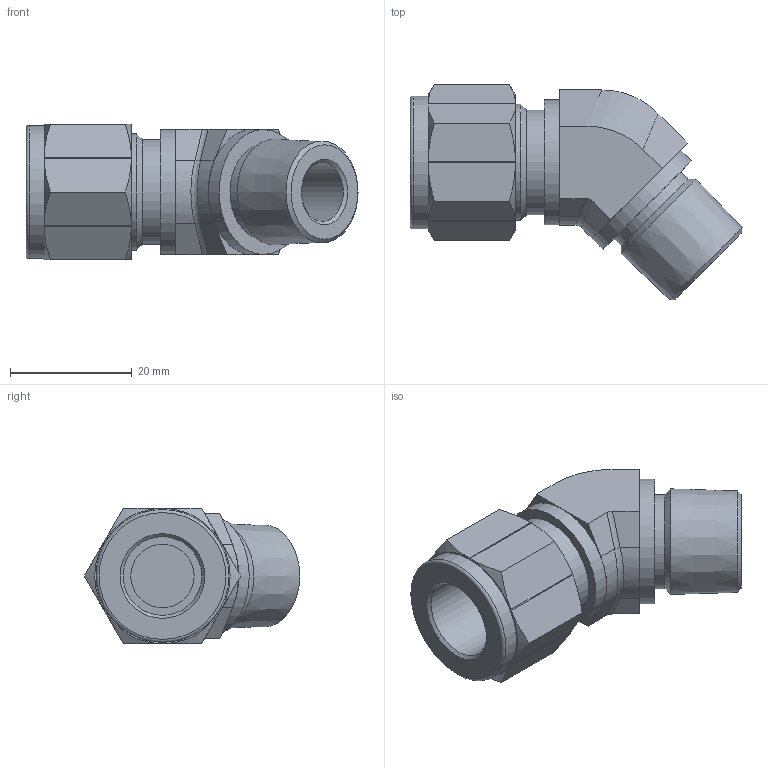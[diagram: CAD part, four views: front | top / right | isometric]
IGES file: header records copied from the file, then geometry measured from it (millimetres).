
Global section: file name: No Iges File Name specified; native system: Autodesk Inventor 2012; preprocessor: AutoDesk Inventor Iges Exporter R2012; author: 硅己绕,, ; organization: 11; date: 20150603.091942; units: millimetre
Bounding box: 54.49 x 35.37 x 22.23 mm (x, y, z)
Volume: 14136.8 mm3; surface area: 6214 mm2
Topology: 1 solids, 1 shells, 75 faces, 152 edges, 89 vertices
Faces by surface type: plane 34, cylinder 16, cone 16, revolution 7, bspline 1, torus 1
Full cylindrical faces by diameter (mm): 15.5 x1, 17.2 x1, 19.05 x1, 20.5 x2, 21.804 x1
